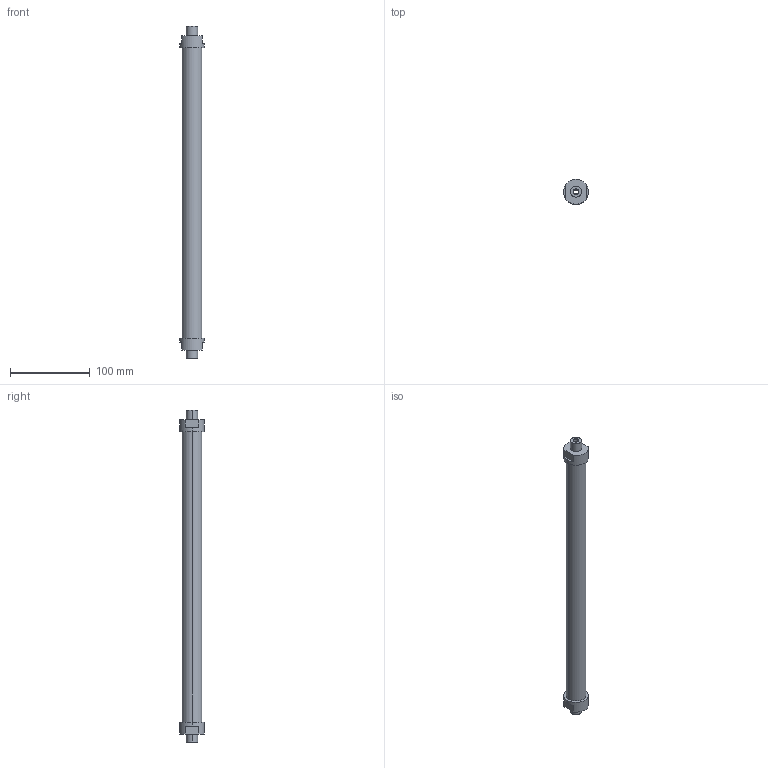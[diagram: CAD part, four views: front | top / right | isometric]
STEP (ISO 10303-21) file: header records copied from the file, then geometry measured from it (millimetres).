
FILE_DESCRIPTION(('STEP AP214'),'1');
FILE_NAME('ETT-R050G404.stp','2015-02-02T11:41:27',(' '),(' '),'Spatial InterOp 3D',' ',' ');
FILE_SCHEMA(('automotive_design'));
Length unit declared in the file: metre
Products named in the file (3): 1; 2; 3
Bounding box: 31 x 31 x 416 mm (x, y, z)
Volume: 191800.7 mm3; surface area: 42774 mm2
Topology: 1 solids, 7 shells, 32 faces, 86 edges, 66 vertices
Faces by surface type: cylinder 16, plane 16
Entity records: 1375 total; most frequent: DIRECTION 206, CARTESIAN_POINT 187, ORIENTED_EDGE 148, EDGE_CURVE 86, AXIS2_PLACEMENT_3D 85, VERTEX_POINT 66, CIRCLE 50, EDGE_LOOP 40
